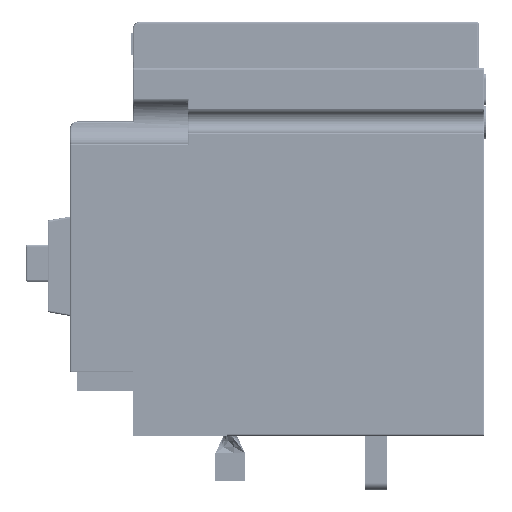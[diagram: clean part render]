
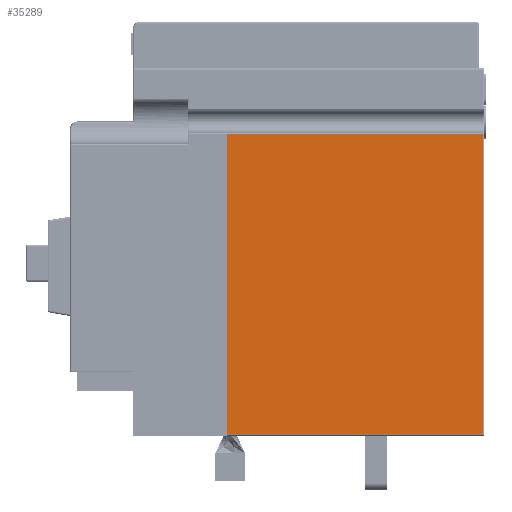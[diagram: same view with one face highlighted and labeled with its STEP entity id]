
A CAD part, left-side view. The second image highlights one B-rep face of the part: STEP entity #35289.
In plain terms, the highlighted planar face has unit normal (-1, 0, 0).
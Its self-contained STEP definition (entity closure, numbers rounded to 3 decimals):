
#12888=DIRECTION('',(0.,1.,0.));
#12889=VECTOR('',#12888,69.5);
#12890=CARTESIAN_POINT('',(-115.,0.5,-111.8));
#12891=LINE('',#12890,#12889);
#12895=DIRECTION('',(0.,0.,1.));
#12896=VECTOR('',#12895,81.336);
#12897=CARTESIAN_POINT('',(-115.,70.,-111.8));
#12898=LINE('',#12897,#12896);
#12902=DIRECTION('',(0.,0.,1.));
#12903=VECTOR('',#12902,81.336);
#12904=CARTESIAN_POINT('',(-115.,0.5,-111.8));
#12905=LINE('',#12904,#12903);
#12956=DIRECTION('',(0.,1.,0.));
#12957=VECTOR('',#12956,69.5);
#12958=CARTESIAN_POINT('',(-115.,0.5,-30.464));
#12959=LINE('',#12958,#12957);
#23205=CARTESIAN_POINT('',(-115.,70.,-30.464));
#23207=VERTEX_POINT('',#23205);
#24669=CARTESIAN_POINT('',(-115.,70.,-111.8));
#24671=VERTEX_POINT('',#24669);
#24672=CARTESIAN_POINT('',(-115.,0.5,-111.8));
#24673=VERTEX_POINT('',#24672);
#24694=CARTESIAN_POINT('',(-115.,0.5,-30.464));
#24695=VERTEX_POINT('',#24694);
#35275=CARTESIAN_POINT('',(-115.,0.,-100.));
#35276=DIRECTION('',(-1.,0.,0.));
#35277=DIRECTION('',(0.,0.,1.));
#35278=AXIS2_PLACEMENT_3D('',#35275,#35276,#35277);
#35279=PLANE('',#35278);
#35281=ORIENTED_EDGE('',*,*,#35280,.T.);
#35282=ORIENTED_EDGE('',*,*,#31306,.T.);
#35284=ORIENTED_EDGE('',*,*,#35283,.F.);
#35286=ORIENTED_EDGE('',*,*,#35285,.F.);
#35287=EDGE_LOOP('',(#35281,#35282,#35284,#35286));
#35288=FACE_OUTER_BOUND('',#35287,.F.);
#35289=ADVANCED_FACE('',(#35288),#35279,.T.);
#31306=EDGE_CURVE('',#24671,#23207,#12898,.T.);
#35280=EDGE_CURVE('',#24673,#24671,#12891,.T.);
#35283=EDGE_CURVE('',#24695,#23207,#12959,.T.);
#35285=EDGE_CURVE('',#24673,#24695,#12905,.T.);
